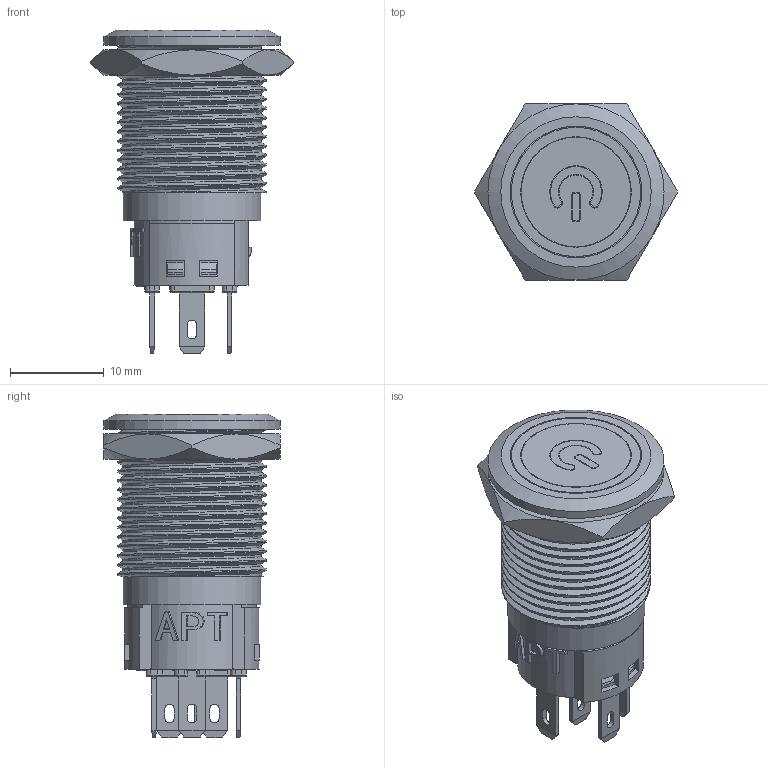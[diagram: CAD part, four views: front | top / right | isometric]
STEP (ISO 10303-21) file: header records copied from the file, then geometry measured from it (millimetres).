
FILE_DESCRIPTION(/* description */ (''),/* implementation_level */ '2;1');
FILE_NAME(/* name */ 'FM16N-SFP-11D1S1.prt.stp',/* time_stamp */ '2020-08-03T16:55:47+08:00',/* author */ (''),/* organization */ (''),/* preprocessor_version */ 'ST-DEVELOPER v16.7',/* originating_system */ 'SIEMENS PLM Software NX 12.0',/* authorisation */ '');
FILE_SCHEMA (('AUTOMOTIVE_DESIGN { 1 0 10303 214 3 1 1 1 }'));
Length unit declared in the file: millimetre
Products named in the file (1): Admi2AF0CFF0h9g4
Bounding box: 21.71 x 18.8 x 34.55 mm (x, y, z)
Volume: 2909.6 mm3; surface area: 6771.7 mm2
Topology: 4 solids, 5 shells, 1038 faces, 2942 edges, 1907 vertices
Faces by surface type: plane 688, cylinder 195, torus 58, extrusion 43, cone 40, bspline 14
Full cylindrical faces by diameter (mm): 1.2 x2, 2 x3, 5 x1, 7 x1, 7.5 x1, 11 x1, 11.25 x1, 11.7 x1, 11.8 x1, 13.8 x1, 13.9 x1, 14.05 x1, 14.7 x1, 18.8 x1
Entity records: 41305 total; most frequent: CARTESIAN_POINT 10667, ORIENTED_EDGE 5820, DIRECTION 5191, EDGE_CURVE 2910, VECTOR 2037, LINE 1994, VERTEX_POINT 1898, AXIS2_PLACEMENT_3D 1577
